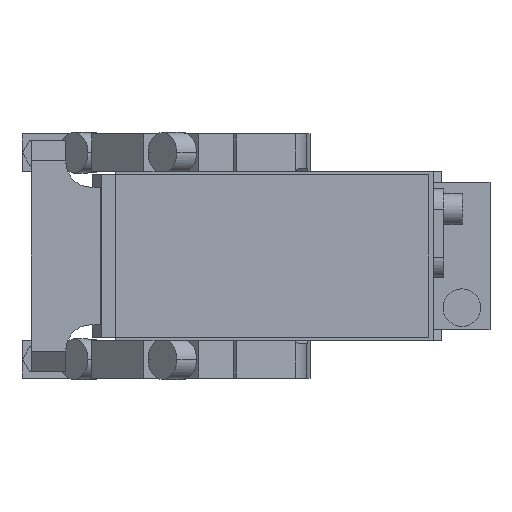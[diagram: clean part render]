
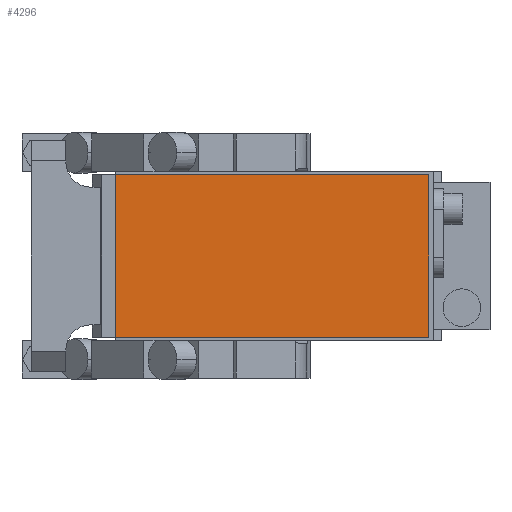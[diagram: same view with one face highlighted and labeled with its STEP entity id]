
A CAD part, front view. The second image highlights one B-rep face of the part: STEP entity #4296.
In plain terms, the highlighted planar face has unit normal (0, -1, 0).
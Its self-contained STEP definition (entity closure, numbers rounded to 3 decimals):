
#123 = ORIENTED_EDGE ( 'NONE', *, *, #1530, .T. ) ;
#1530 = EDGE_CURVE ( 'NONE', #10079, #3166, #7801, .T. ) ;
#1546 = CARTESIAN_POINT ( 'NONE',  ( 81., -286.5, 26. ) ) ;
#1692 = DIRECTION ( 'NONE',  ( 0., 0., -1. ) ) ;
#1737 = DIRECTION ( 'NONE',  ( 0., 0., -1. ) ) ;
#1772 = PLANE ( 'NONE',  #3471 ) ;
#2172 = CARTESIAN_POINT ( 'NONE',  ( -19., -286.5, -26. ) ) ;
#2428 = DIRECTION ( 'NONE',  ( -1., 0., 0. ) ) ;
#2656 = LINE ( 'NONE', #3512, #14795 ) ;
#2766 = ORIENTED_EDGE ( 'NONE', *, *, #9318, .T. ) ;
#3155 = FACE_OUTER_BOUND ( 'NONE', #5452, .T. ) ;
#3166 = VERTEX_POINT ( 'NONE', #11938 ) ;
#3248 = EDGE_CURVE ( 'NONE', #10597, #14862, #2656, .T. ) ;
#3471 = AXIS2_PLACEMENT_3D ( 'NONE', #4101, #13452, #1692 ) ;
#3512 = CARTESIAN_POINT ( 'NONE',  ( -19., -286.5, 26. ) ) ;
#3832 = CARTESIAN_POINT ( 'NONE',  ( -19., -286.5, 26. ) ) ;
#3937 = CARTESIAN_POINT ( 'NONE',  ( -19., -286.5, 26. ) ) ;
#4101 = CARTESIAN_POINT ( 'NONE',  ( 0., -286.5, 0. ) ) ;
#4296 = ADVANCED_FACE ( 'NONE', ( #3155 ), #1772, .T. ) ;
#4985 = VECTOR ( 'NONE', #1737, 1000. ) ;
#5452 = EDGE_LOOP ( 'NONE', ( #2766, #123, #6663, #11100 ) ) ;
#5697 = VECTOR ( 'NONE', #12310, 1000. ) ;
#6208 = LINE ( 'NONE', #9628, #11621 ) ;
#6663 = ORIENTED_EDGE ( 'NONE', *, *, #13332, .T. ) ;
#7667 = CARTESIAN_POINT ( 'NONE',  ( -19., -286.5, -26. ) ) ;
#7801 = LINE ( 'NONE', #7667, #5697 ) ;
#8558 = DIRECTION ( 'NONE',  ( 0., 0., 1. ) ) ;
#9318 = EDGE_CURVE ( 'NONE', #14862, #10079, #13110, .T. ) ;
#9628 = CARTESIAN_POINT ( 'NONE',  ( 81., -286.5, 26. ) ) ;
#10079 = VERTEX_POINT ( 'NONE', #2172 ) ;
#10597 = VERTEX_POINT ( 'NONE', #1546 ) ;
#11100 = ORIENTED_EDGE ( 'NONE', *, *, #3248, .T. ) ;
#11621 = VECTOR ( 'NONE', #8558, 1000. ) ;
#11938 = CARTESIAN_POINT ( 'NONE',  ( 81., -286.5, -26. ) ) ;
#12310 = DIRECTION ( 'NONE',  ( 1., 0., 0. ) ) ;
#13110 = LINE ( 'NONE', #3832, #4985 ) ;
#13332 = EDGE_CURVE ( 'NONE', #3166, #10597, #6208, .T. ) ;
#13452 = DIRECTION ( 'NONE',  ( 0., -1., 0. ) ) ;
#14795 = VECTOR ( 'NONE', #2428, 1000. ) ;
#14862 = VERTEX_POINT ( 'NONE', #3937 ) ;
